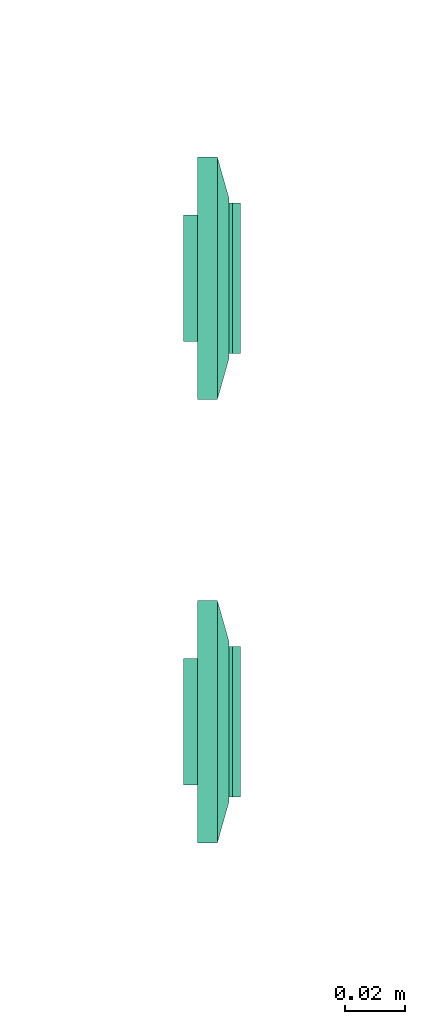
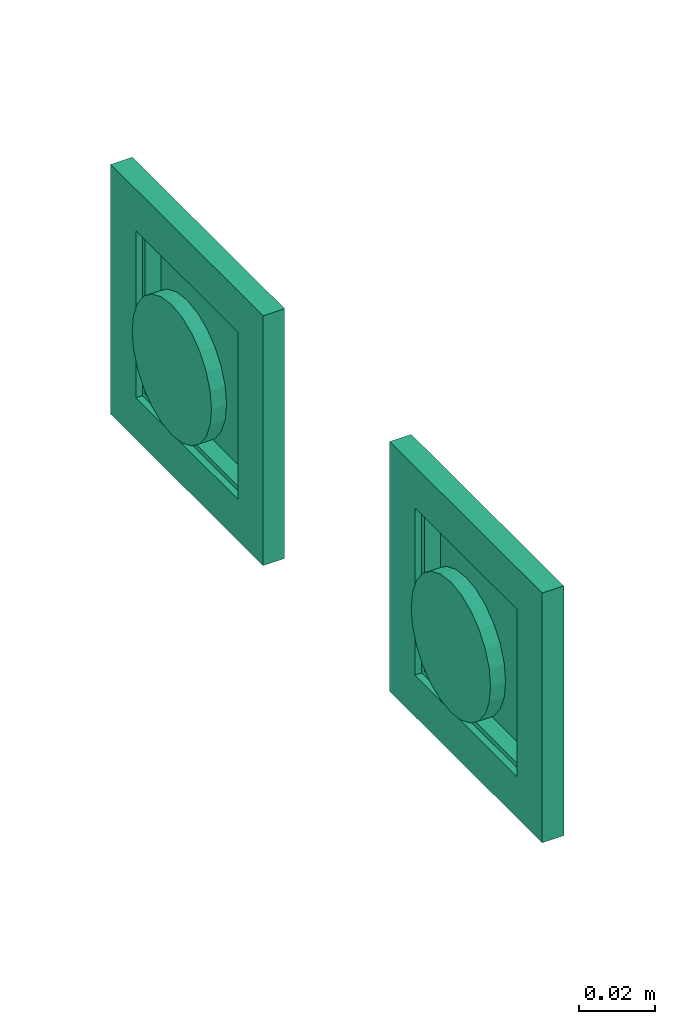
# One storey, part 7 of 9: 2 flow terminals.
"""IFC2X3 building model written with IfcOpenShell, lengths in metres."""

from ifc_helpers import new_model, entity, si_unit, converted_unit, derived_unit, direction, frame, origin, place, context, subcontext, project, spatial, faceted_brep, source, transform, mapped, type_object, type_shapes, element, save


model = new_model("IFC2X3")

# Units and contexts
model_context = context("Model", 3, precision=1e-05, world=origin(), true_north=direction((6.12303176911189e-17, 1.0)))
body_context = subcontext(model_context, "Body", "Model", "MODEL_VIEW")
ifc_project = project(units=[si_unit("LENGTHUNIT", "METRE"), si_unit("AREAUNIT", "SQUARE_METRE"), si_unit("VOLUMEUNIT", "CUBIC_METRE"), converted_unit("PLANEANGLEUNIT", "DEGREE", entity("IfcRatioMeasure", 0.0174532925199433), si_unit("PLANEANGLEUNIT", "RADIAN"), dimensions=[0, 0, 0, 0, 0, 0, 0]), si_unit("MASSUNIT", "GRAM", prefix="KILO"), derived_unit("MASSDENSITYUNIT", [(si_unit("MASSUNIT", "GRAM", prefix="KILO"), 1), (si_unit("LENGTHUNIT", "METRE"), -3)]), si_unit("TIMEUNIT", "SECOND"), si_unit("FREQUENCYUNIT", "HERTZ"), si_unit("THERMODYNAMICTEMPERATUREUNIT", "DEGREE_CELSIUS"), derived_unit("THERMALTRANSMITTANCEUNIT", [(si_unit("MASSUNIT", "GRAM", prefix="KILO"), 1), (si_unit("THERMODYNAMICTEMPERATUREUNIT", "KELVIN"), -1), (si_unit("TIMEUNIT", "SECOND"), -3)]), derived_unit("VOLUMETRICFLOWRATEUNIT", [(si_unit("LENGTHUNIT", "METRE"), 3), (si_unit("TIMEUNIT", "SECOND"), -1)]), si_unit("ELECTRICCURRENTUNIT", "AMPERE"), si_unit("ELECTRICVOLTAGEUNIT", "VOLT"), si_unit("POWERUNIT", "WATT"), si_unit("FORCEUNIT", "NEWTON"), si_unit("ILLUMINANCEUNIT", "LUX"), si_unit("LUMINOUSFLUXUNIT", "LUMEN"), si_unit("LUMINOUSINTENSITYUNIT", "CANDELA"), derived_unit("USERDEFINED", [(si_unit("MASSUNIT", "GRAM", prefix="KILO"), -1), (si_unit("LENGTHUNIT", "METRE"), -2), (si_unit("TIMEUNIT", "SECOND"), 3), (si_unit("LUMINOUSFLUXUNIT", "LUMEN"), 1)]), derived_unit("LINEARVELOCITYUNIT", [(si_unit("LENGTHUNIT", "METRE"), 1), (si_unit("TIMEUNIT", "SECOND"), -1)]), si_unit("PRESSUREUNIT", "PASCAL"), derived_unit("USERDEFINED", [(si_unit("LENGTHUNIT", "METRE"), -2), (si_unit("MASSUNIT", "GRAM", prefix="KILO"), 1), (si_unit("TIMEUNIT", "SECOND"), -2)])], contexts=[model_context])

# Site, building, storey
site_placement = place(None, origin())
site = spatial("IfcSite", under=ifc_project, at=site_placement, Name="Default", CompositionType="ELEMENT")
building_placement = place(site_placement, origin())
building = spatial("IfcBuilding", under=site, at=building_placement, CompositionType="ELEMENT")
storey_placement = place(building_placement, frame((0.0, 0.0, -0.0599999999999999)))
storey = spatial("IfcBuildingStorey", under=building, at=storey_placement, Name="S01", CompositionType="ELEMENT", Elevation=-0.0599999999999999)

# Flow terminals
light_fixture_type = type_object("IfcLightFixtureType", Name="VV IP21", PredefinedType="NOTDEFINED")
shared_shape = source(origin(), body_context, "Body", "Brep", [
    faceted_brep([(0.0, 0.0209999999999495, -0.00460000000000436), (0.00543519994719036, 0.02028444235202, -0.00460000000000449), (0.0105000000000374, 0.0181865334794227, -0.00460000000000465), (0.0148492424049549, 0.014849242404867, -0.00460000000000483), (0.0181865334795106, 0.0104999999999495, -0.00460000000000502), (0.0202844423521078, 0.00543519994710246, -0.00460000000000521), (0.0210000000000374, 0.0, -0.00460000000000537), (0.0202844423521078, -0.00543519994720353, -0.00460000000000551), (0.0181865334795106, -0.0105000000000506, -0.0046000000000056), (0.0148492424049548, -0.0148492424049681, -0.00460000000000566), (0.0105000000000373, -0.0181865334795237, -0.00460000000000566), (0.00543519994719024, -0.0202844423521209, -0.00460000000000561), (0.0, -0.0210000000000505, -0.00460000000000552), (-0.00543519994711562, -0.0202844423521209, -0.00460000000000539), (-0.0104999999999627, -0.0181865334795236, -0.00460000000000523), (-0.0148492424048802, -0.0148492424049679, -0.00460000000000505), (-0.0181865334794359, -0.0105000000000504, -0.00460000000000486), (-0.0202844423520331, -0.00543519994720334, -0.00460000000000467), (-0.0209999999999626, 0.0, -0.00460000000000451), (-0.020284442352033, 0.00543519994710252, -0.00460000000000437), (-0.0181865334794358, 0.0104999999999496, -0.00460000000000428), (-0.0148492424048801, 0.0148492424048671, -0.00460000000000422), (-0.0104999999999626, 0.0181865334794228, -0.00460000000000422), (-0.00543519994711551, 0.02028444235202, -0.00460000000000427), (-0.020284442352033, -0.00543519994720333, 0.0), (-0.0209999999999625, 0.0, 0.0), (-0.0181865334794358, -0.0105000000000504, 0.0), (-0.0104999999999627, -0.0181865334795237, 0.0), (-0.0148492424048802, -0.0148492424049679, 0.0), (-0.00543519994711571, -0.020284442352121, 0.0), (0.0, -0.0210000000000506, 0.0), (0.00543519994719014, -0.0202844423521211, 0.0), (0.0105000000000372, -0.018186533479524, 0.0), (0.0181865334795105, -0.0105000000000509, 0.0), (0.0148492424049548, -0.0148492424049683, 0.0), (0.0202844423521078, -0.00543519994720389, 0.0), (0.0210000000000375, 0.0, 0.0), (0.0202844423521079, 0.00543519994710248, 0.0), (0.0181865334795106, 0.0104999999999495, 0.0), (0.0105000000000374, 0.0181865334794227, 0.0), (0.0148492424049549, 0.014849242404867, 0.0), (0.00543519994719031, 0.0202844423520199, 0.0), (0.0, 0.0209999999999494, 0.0), (-0.00543519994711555, 0.0202844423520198, 0.0), (-0.0104999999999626, 0.0181865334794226, 0.0), (-0.0181865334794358, 0.0104999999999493, 0.0), (-0.0148492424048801, 0.0148492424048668, 0.0), (-0.020284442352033, 0.00543519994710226, 0.0)], [[[0, 1, 2, 3, 4, 5, 6, 7, 8, 9, 10, 11, 12, 13, 14, 15, 16, 17, 18, 19, 20, 21, 22, 23]], [[17, 24, 25, 18]], [[16, 26, 24, 17]], [[27, 28, 15, 14]], [[16, 15, 28, 26]], [[29, 27, 14, 13]], [[30, 29, 13, 12]], [[11, 31, 30, 12]], [[10, 32, 31, 11]], [[33, 34, 9, 8]], [[10, 9, 34, 32]], [[35, 33, 8, 7]], [[36, 35, 7, 6]], [[5, 37, 36, 6]], [[4, 38, 37, 5]], [[39, 40, 3, 2]], [[4, 3, 40, 38]], [[41, 39, 2, 1]], [[42, 41, 1, 0]], [[23, 43, 42, 0]], [[22, 44, 43, 23]], [[45, 46, 21, 20]], [[22, 21, 46, 44]], [[47, 45, 20, 19]], [[25, 47, 19, 18]], [[25, 24, 26, 28, 27, 29, 30, 31, 32, 34, 33, 35, 36, 37, 38, 40, 39, 41, 42, 43, 44, 46, 45, 47]]]),
    faceted_brep([(0.0270000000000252, 0.026999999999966, 0.0103999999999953), (-0.0269999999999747, 0.026999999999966, 0.0103999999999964), (-0.0269999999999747, -0.0270000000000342, 0.0103999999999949), (0.0270000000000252, -0.0270000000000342, 0.0103999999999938), (-0.0254999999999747, 0.0258096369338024, 0.0103999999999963), (0.0255000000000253, 0.0258096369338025, 0.0103999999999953), (0.0255000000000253, -0.0255000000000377, 0.0103999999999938), (-0.0254999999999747, -0.0255000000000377, 0.0103999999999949), (0.0270000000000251, 0.0269999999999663, 0.00199999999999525), (0.0270000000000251, -0.0270000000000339, 0.00199999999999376), (-0.0269999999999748, -0.0270000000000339, 0.00199999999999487), (-0.0269999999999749, 0.0269999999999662, 0.00199999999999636), (0.0255000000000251, 0.0258096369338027, 0.00199999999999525), (-0.0254999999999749, 0.0258096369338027, 0.0019999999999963), (-0.0254999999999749, -0.0255000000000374, 0.00199999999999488), (0.0255000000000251, -0.0255000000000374, 0.00199999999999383)], [[[0, 1, 2, 3], [4, 5, 6, 7]], [[8, 9, 10, 11], [12, 13, 14, 15]], [[1, 0, 8, 11]], [[2, 1, 11, 10]], [[3, 2, 10, 9]], [[0, 3, 9, 8]], [[12, 5, 4, 13]], [[13, 4, 7, 14]], [[14, 7, 6, 15]], [[5, 12, 15, 6]]]),
    faceted_brep([(0.0250000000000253, 0.0253096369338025, 0.00659999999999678), (0.0250000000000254, 0.0253096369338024, 0.0117095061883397), (0.0250000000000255, -0.0245000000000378, 0.0142232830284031), (0.0250000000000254, -0.0250000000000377, 0.0117095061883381), (0.0250000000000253, -0.0250000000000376, 0.00659999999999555), (-0.0249999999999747, 0.0253096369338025, 0.00659999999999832), (-0.0249999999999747, -0.0250000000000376, 0.00659999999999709), (-0.0249999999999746, -0.0250000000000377, 0.0117095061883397), (-0.0249999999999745, -0.0245000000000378, 0.0142232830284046), (-0.0249999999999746, 0.0253096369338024, 0.0117095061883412)], [[[0, 1, 2, 3, 4]], [[5, 6, 7, 8, 9]], [[1, 0, 5, 9]], [[2, 1, 9, 8]], [[3, 2, 8, 7]], [[4, 3, 7, 6]], [[0, 4, 6, 5]]]),
    faceted_brep([(0.027000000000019, 0.0269999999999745, 0.00659999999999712), (-0.0269999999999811, 0.0269999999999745, 0.00659999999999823), (-0.026999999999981, -0.0270000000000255, 0.00659999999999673), (0.027000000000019, -0.0270000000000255, 0.00659999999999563), (0.040350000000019, 0.0403499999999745, 0.00659999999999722), (0.040350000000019, -0.0403500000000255, 0.00659999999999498), (-0.0403499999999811, -0.0403500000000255, 0.00659999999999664), (-0.0403499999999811, 0.0403499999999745, 0.00659999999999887), (-0.026999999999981, 0.0269999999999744, 0.0103999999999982), (0.027000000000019, 0.0269999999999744, 0.0103999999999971), (-0.026999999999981, -0.0270000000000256, 0.0103999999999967), (0.027000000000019, -0.0270000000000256, 0.0103999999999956)], [[[0, 1, 2, 3], [4, 5, 6, 7]], [[4, 7, 8, 9]], [[7, 6, 10, 8]], [[6, 5, 11, 10]], [[5, 4, 9, 11]], [[0, 9, 8, 1]], [[1, 8, 10, 2]], [[2, 10, 11, 3]], [[9, 0, 3, 11]]], outer=[[False, True], [True], [True], [True], [True], [True], [True], [True], [True]]),
    faceted_brep([(0.040350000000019, 0.0403499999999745, 0.00659999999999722), (-0.0403499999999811, 0.0403499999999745, 0.00659999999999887), (-0.0403499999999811, -0.0403500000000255, 0.00659999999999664), (0.040350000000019, -0.0403500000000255, 0.00659999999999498), (-0.0269999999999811, 0.0269999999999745, 0.00659999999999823), (0.0270000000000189, 0.0269999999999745, 0.00659999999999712), (0.0270000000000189, -0.0270000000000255, 0.00659999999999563), (-0.0269999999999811, -0.0270000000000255, 0.00659999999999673), (0.0403500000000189, 0.0403499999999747, 0.0), (0.0403500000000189, -0.0403500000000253, 0.0), (-0.0403499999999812, -0.0403500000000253, 0.0), (-0.0403499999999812, 0.0403499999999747, 0.0), (0.0270000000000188, 0.0269999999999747, 0.0), (-0.0269999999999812, 0.0269999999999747, 0.0), (-0.0269999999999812, -0.0270000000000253, 0.0), (0.0270000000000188, -0.0270000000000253, 0.0)], [[[0, 1, 2, 3], [4, 5, 6, 7]], [[8, 9, 10, 11], [12, 13, 14, 15]], [[1, 0, 8, 11]], [[2, 1, 11, 10]], [[3, 2, 10, 9]], [[0, 3, 9, 8]], [[12, 5, 4, 13]], [[13, 4, 7, 14]], [[14, 7, 6, 15]], [[5, 12, 15, 6]]]),
])
type_shapes(light_fixture_type, [shared_shape])
for number, where, z_axis, x_axis in (
    (1, (53.5477436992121, -191.858914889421, 1.11000000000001), (1.0, 0.0, 0.0), (0.0, 1.0, 0.0)),
    (2, (53.5477436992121, -191.711248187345, 1.11000000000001), (1.0, 0.0, 0.0), (0.0, 1.0, 0.0)),
):
    element("IfcFlowTerminal", number, at=place(storey_placement, frame(where, z_axis=z_axis, x_axis=x_axis)), inside=storey, type_object=light_fixture_type, Name="INT_Inter VV:VV IP21", ObjectType="INT_Inter VV:VV IP21", context=body_context, shape_type="MappedRepresentation", body=[
        mapped(shared_shape, transform((0.0, 0.0, 0.0), scale=1.0)),
    ])

save(model, "model.ifc")
